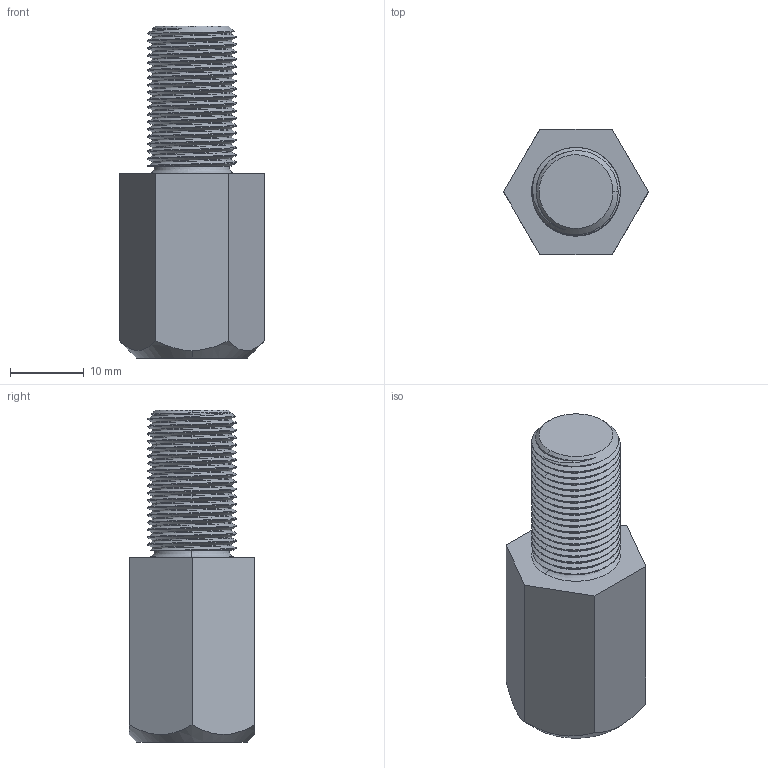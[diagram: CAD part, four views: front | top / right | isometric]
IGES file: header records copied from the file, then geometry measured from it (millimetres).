
Start section:  PTC IGES file: 022542_cp-021al.igs
Global section: file name: 022542_cp-021al.igs; native system: Pro/ENGINEER by Parametric Technology Corporation; preprocessor: 2004090; author: KAIHATSU01; organization: Unknown; date: 061017.111144; units: millimetre
Bounding box: 19.63 x 17 x 45 mm (x, y, z)
Volume: 5803.3 mm3; surface area: 3894.1 mm2
Topology: 1 solids, 1 shells, 74 faces, 189 edges, 119 vertices
Faces by surface type: bspline 74
